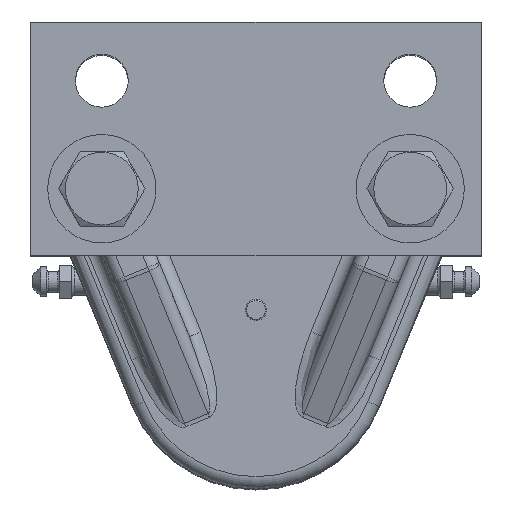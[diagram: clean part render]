
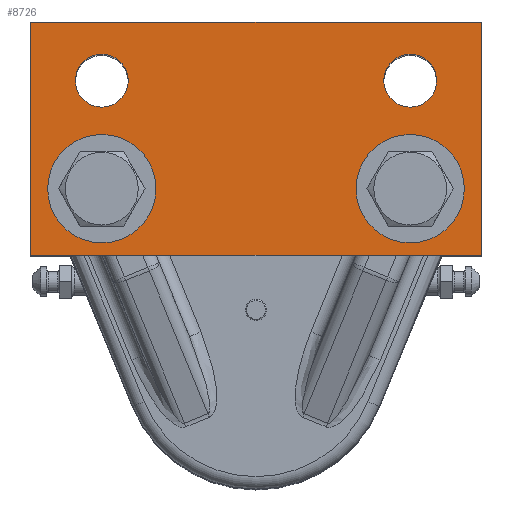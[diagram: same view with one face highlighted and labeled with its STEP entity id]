
A CAD part, top view. The second image highlights one B-rep face of the part: STEP entity #8726.
In plain terms, the highlighted planar face has unit normal (0, 0, 1).
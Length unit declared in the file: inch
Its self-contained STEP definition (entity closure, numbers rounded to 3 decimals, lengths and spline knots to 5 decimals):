
#339 = FACE_BOUND ( 'NONE', #6537, .T. ) ;
#399 = AXIS2_PLACEMENT_3D ( 'NONE', #3824, #724, #7651 ) ;
#401 = DIRECTION ( 'NONE',  ( 1., 0., 0. ) ) ;
#494 = EDGE_CURVE ( 'NONE', #6608, #6608, #9809, .T. ) ;
#532 = DIRECTION ( 'NONE',  ( 1., 0., 0. ) ) ;
#541 = DIRECTION ( 'NONE',  ( 1., 0., 0. ) ) ;
#644 = VERTEX_POINT ( 'NONE', #11991 ) ;
#724 = DIRECTION ( 'NONE',  ( 0., 0., 1. ) ) ;
#746 = CARTESIAN_POINT ( 'NONE',  ( -1.69, 2.5, 4.858 ) ) ;
#971 = VECTOR ( 'NONE', #1431, 39.37008 ) ;
#1118 = VERTEX_POINT ( 'NONE', #8457 ) ;
#1431 = DIRECTION ( 'NONE',  ( -1., 0., 0. ) ) ;
#1655 = CARTESIAN_POINT ( 'NONE',  ( 1.3545, 2.06, 4.858 ) ) ;
#2053 = EDGE_LOOP ( 'NONE', ( #2455 ) ) ;
#2394 = CARTESIAN_POINT ( 'NONE',  ( -1.69, 2.5, 4.858 ) ) ;
#2402 = FACE_BOUND ( 'NONE', #2053, .T. ) ;
#2455 = ORIENTED_EDGE ( 'NONE', *, *, #11022, .F. ) ;
#2952 = ORIENTED_EDGE ( 'NONE', *, *, #10490, .F. ) ;
#3155 = ORIENTED_EDGE ( 'NONE', *, *, #12212, .T. ) ;
#3380 = CARTESIAN_POINT ( 'NONE',  ( -1.69, 2.5, 4.858 ) ) ;
#3414 = VERTEX_POINT ( 'NONE', #6008 ) ;
#3560 = LINE ( 'NONE', #2394, #971 ) ;
#3632 = ORIENTED_EDGE ( 'NONE', *, *, #8628, .F. ) ;
#3722 = CARTESIAN_POINT ( 'NONE',  ( -1.69, 2.5, 4.858 ) ) ;
#3824 = CARTESIAN_POINT ( 'NONE',  ( 1.156, 1.25, 4.858 ) ) ;
#4320 = EDGE_LOOP ( 'NONE', ( #3155, #11366, #11272, #7791 ) ) ;
#4721 = AXIS2_PLACEMENT_3D ( 'NONE', #12273, #12338, #532 ) ;
#4823 = ORIENTED_EDGE ( 'NONE', *, *, #494, .F. ) ;
#4834 = DIRECTION ( 'NONE',  ( 0., -1., 0. ) ) ;
#4907 = CARTESIAN_POINT ( 'NONE',  ( -1.156, 2.06, 4.858 ) ) ;
#5327 = EDGE_LOOP ( 'NONE', ( #2952 ) ) ;
#5387 = EDGE_CURVE ( 'NONE', #3414, #12419, #3560, .T. ) ;
#5969 = VECTOR ( 'NONE', #9476, 39.37008 ) ;
#6008 = CARTESIAN_POINT ( 'NONE',  ( 1.69, 2.5, 4.858 ) ) ;
#6187 = CARTESIAN_POINT ( 'NONE',  ( 1.4685, 1.25, 4.858 ) ) ;
#6238 = FACE_BOUND ( 'NONE', #5327, .T. ) ;
#6537 = EDGE_LOOP ( 'NONE', ( #3632 ) ) ;
#6608 = VERTEX_POINT ( 'NONE', #7707 ) ;
#6883 = CARTESIAN_POINT ( 'NONE',  ( -1.69, 0.75, 4.858 ) ) ;
#6931 = DIRECTION ( 'NONE',  ( 1., 0., 0. ) ) ;
#7273 = PLANE ( 'NONE',  #10115 ) ;
#7340 = DIRECTION ( 'NONE',  ( 0., 0., 1. ) ) ;
#7473 = DIRECTION ( 'NONE',  ( 0., 0., 1. ) ) ;
#7651 = DIRECTION ( 'NONE',  ( 1., 0., 0. ) ) ;
#7653 = LINE ( 'NONE', #6883, #12648 ) ;
#7707 = CARTESIAN_POINT ( 'NONE',  ( -0.8435, 1.25, 4.858 ) ) ;
#7726 = AXIS2_PLACEMENT_3D ( 'NONE', #10401, #7473, #541 ) ;
#7791 = ORIENTED_EDGE ( 'NONE', *, *, #5387, .T. ) ;
#8457 = CARTESIAN_POINT ( 'NONE',  ( 1.69, 0.75, 4.858 ) ) ;
#8538 = EDGE_LOOP ( 'NONE', ( #4823 ) ) ;
#8628 = EDGE_CURVE ( 'NONE', #8727, #8727, #12599, .T. ) ;
#8630 = CARTESIAN_POINT ( 'NONE',  ( 1.69, 2.5, 4.858 ) ) ;
#8683 = CIRCLE ( 'NONE', #399, 0.3125 ) ;
#8726 = ADVANCED_FACE ( 'NONE', ( #6238, #10198, #339, #2402, #12200 ), #7273, .T. ) ;
#8727 = VERTEX_POINT ( 'NONE', #1655 ) ;
#8734 = EDGE_CURVE ( 'NONE', #1118, #3414, #12664, .T. ) ;
#8866 = DIRECTION ( 'NONE',  ( 0., 0., 1. ) ) ;
#9045 = VERTEX_POINT ( 'NONE', #11116 ) ;
#9476 = DIRECTION ( 'NONE',  ( 0., 1., 0. ) ) ;
#9809 = CIRCLE ( 'NONE', #7726, 0.3125 ) ;
#9942 = CIRCLE ( 'NONE', #10357, 0.1985 ) ;
#10115 = AXIS2_PLACEMENT_3D ( 'NONE', #3380, #7340, #401 ) ;
#10198 = FACE_BOUND ( 'NONE', #8538, .T. ) ;
#10357 = AXIS2_PLACEMENT_3D ( 'NONE', #4907, #8866, #6931 ) ;
#10401 = CARTESIAN_POINT ( 'NONE',  ( -1.156, 1.25, 4.858 ) ) ;
#10490 = EDGE_CURVE ( 'NONE', #11899, #11899, #8683, .T. ) ;
#10841 = DIRECTION ( 'NONE',  ( 1., 0., 0. ) ) ;
#11022 = EDGE_CURVE ( 'NONE', #9045, #9045, #9942, .T. ) ;
#11116 = CARTESIAN_POINT ( 'NONE',  ( -0.9575, 2.06, 4.858 ) ) ;
#11272 = ORIENTED_EDGE ( 'NONE', *, *, #8734, .T. ) ;
#11366 = ORIENTED_EDGE ( 'NONE', *, *, #11678, .T. ) ;
#11613 = VECTOR ( 'NONE', #4834, 39.37008 ) ;
#11678 = EDGE_CURVE ( 'NONE', #644, #1118, #7653, .T. ) ;
#11899 = VERTEX_POINT ( 'NONE', #6187 ) ;
#11991 = CARTESIAN_POINT ( 'NONE',  ( -1.69, 0.75, 4.858 ) ) ;
#12200 = FACE_OUTER_BOUND ( 'NONE', #4320, .T. ) ;
#12212 = EDGE_CURVE ( 'NONE', #12419, #644, #12692, .T. ) ;
#12273 = CARTESIAN_POINT ( 'NONE',  ( 1.156, 2.06, 4.858 ) ) ;
#12338 = DIRECTION ( 'NONE',  ( 0., 0., 1. ) ) ;
#12419 = VERTEX_POINT ( 'NONE', #746 ) ;
#12599 = CIRCLE ( 'NONE', #4721, 0.1985 ) ;
#12648 = VECTOR ( 'NONE', #10841, 39.37008 ) ;
#12664 = LINE ( 'NONE', #8630, #5969 ) ;
#12692 = LINE ( 'NONE', #3722, #11613 ) ;
